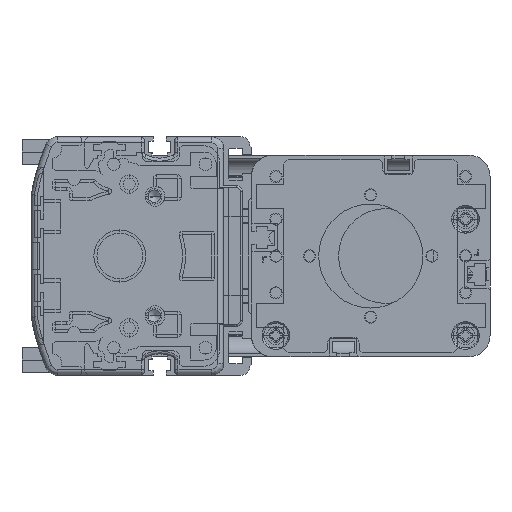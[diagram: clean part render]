
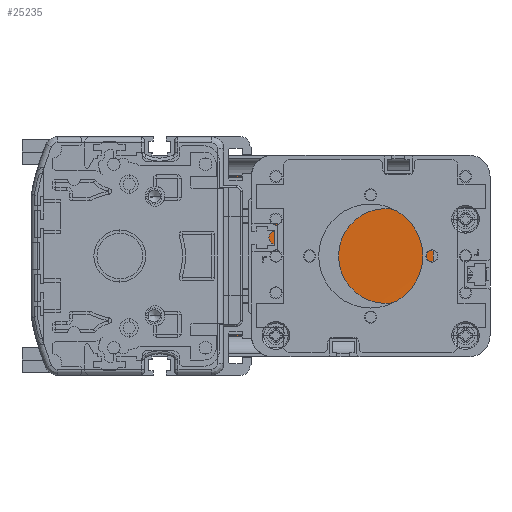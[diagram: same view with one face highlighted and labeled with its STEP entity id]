
A CAD part, left-side view. The second image highlights one B-rep face of the part: STEP entity #25235.
In plain terms, the highlighted spherical face has radius 998.8 mm.
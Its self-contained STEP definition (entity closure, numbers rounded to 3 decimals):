
#7160=CARTESIAN_POINT('',(429.,-67.569,0.));
#7161=DIRECTION('',(0.,1.,0.));
#7162=DIRECTION('',(1.,0.,0.026));
#7163=AXIS2_PLACEMENT_3D('',#7160,#7161,#7162);
#7181=CARTESIAN_POINT('',(429.,-67.569,0.));
#7182=DIRECTION('',(0.,1.,0.));
#7183=DIRECTION('',(1.,0.,-0.007));
#7184=AXIS2_PLACEMENT_3D('',#7181,#7182,#7183);
#7193=CARTESIAN_POINT('',(1425.688,-67.569,
-6.777));
#7194=CARTESIAN_POINT('',(1425.741,-66.776,
-6.493));
#7195=CARTESIAN_POINT('',(1425.841,-65.292,
-5.643));
#7196=CARTESIAN_POINT('',(1425.952,-63.641,
-3.684));
#7197=CARTESIAN_POINT('',(1426.011,-62.764,
-1.279));
#7198=CARTESIAN_POINT('',(1426.011,-62.764,1.28));
#7199=CARTESIAN_POINT('',(1425.952,-63.642,3.684));
#7200=CARTESIAN_POINT('',(1425.841,-65.293,5.644));
#7201=CARTESIAN_POINT('',(1425.741,-66.776,6.493));
#7202=CARTESIAN_POINT('',(1425.688,-67.569,6.777));
#7218=CARTESIAN_POINT('',(1425.688,61.569,6.777));
#7219=CARTESIAN_POINT('',(1425.741,60.779,6.494));
#7220=CARTESIAN_POINT('',(1425.84,59.299,5.648));
#7221=CARTESIAN_POINT('',(1425.952,57.642,3.687));
#7222=CARTESIAN_POINT('',(1426.011,56.764,1.28));
#7223=CARTESIAN_POINT('',(1426.011,56.764,-1.281));
#7224=CARTESIAN_POINT('',(1425.952,57.643,-3.688));
#7225=CARTESIAN_POINT('',(1425.84,59.3,-5.649));
#7226=CARTESIAN_POINT('',(1425.741,60.78,-6.494));
#7227=CARTESIAN_POINT('',(1425.688,61.569,-6.777));
#7229=CARTESIAN_POINT('',(429.,-3.,-26.152));
#7230=DIRECTION('',(0.,0.,1.));
#7231=DIRECTION('',(0.998,-0.065,0.));
#7232=AXIS2_PLACEMENT_3D('',#7229,#7230,#7231);
#7265=CARTESIAN_POINT('',(429.,61.569,0.));
#7266=DIRECTION('',(0.,-1.,0.));
#7267=DIRECTION('',(1.,0.,-0.026));
#7268=AXIS2_PLACEMENT_3D('',#7265,#7266,#7267);
#7278=CARTESIAN_POINT('',(429.,61.569,0.));
#7279=DIRECTION('',(0.,-1.,0.));
#7280=DIRECTION('',(1.,0.,0.007));
#7281=AXIS2_PLACEMENT_3D('',#7278,#7279,#7280);
#7357=CARTESIAN_POINT('',(429.,-3.,26.152));
#7358=DIRECTION('',(0.,0.,-1.));
#7359=DIRECTION('',(0.998,0.065,0.));
#7360=AXIS2_PLACEMENT_3D('',#7357,#7358,#7359);
#13486=VERTEX_POINT('',#7193);
#13487=VERTEX_POINT('',#7202);
#13488=CARTESIAN_POINT('',(1425.368,-67.569,
26.152));
#13489=VERTEX_POINT('',#13488);
#13490=CARTESIAN_POINT('',(1425.368,61.569,26.152));
#13491=VERTEX_POINT('',#13490);
#13492=CARTESIAN_POINT('',(1425.688,61.569,6.777));
#13493=VERTEX_POINT('',#13492);
#13494=VERTEX_POINT('',#7227);
#13495=CARTESIAN_POINT('',(1425.368,61.569,
-26.152));
#13496=VERTEX_POINT('',#13495);
#13497=CARTESIAN_POINT('',(1425.368,-67.569,
-26.152));
#13498=VERTEX_POINT('',#13497);
#25215=CARTESIAN_POINT('',(429.,-3.,0.));
#25216=DIRECTION('',(0.,-1.,0.));
#25217=DIRECTION('',(1.,0.,0.));
#25218=AXIS2_PLACEMENT_3D('',#25215,#25216,#25217);
#25219=SPHERICAL_SURFACE('',#25218,998.8);
#25220=ORIENTED_EDGE('',*,*,#25206,.F.);
#25221=ORIENTED_EDGE('',*,*,#25192,.T.);
#25223=ORIENTED_EDGE('',*,*,#25222,.T.);
#25225=ORIENTED_EDGE('',*,*,#25224,.T.);
#25227=ORIENTED_EDGE('',*,*,#25226,.F.);
#25229=ORIENTED_EDGE('',*,*,#25228,.T.);
#25231=ORIENTED_EDGE('',*,*,#25230,.T.);
#25232=ORIENTED_EDGE('',*,*,#25186,.T.);
#25233=EDGE_LOOP('',(#25220,#25221,#25223,#25225,#25227,#25229,#25231,#25232));
#25234=FACE_OUTER_BOUND('',#25233,.F.);
#25235=ADVANCED_FACE('',(#25234),#25219,.F.);
#7164=CIRCLE('',#7163,996.711);
#7185=CIRCLE('',#7184,996.711);
#7203=B_SPLINE_CURVE_WITH_KNOTS('',3,(#7193,#7194,#7195,#7196,#7197,#7198,#7199,
#7200,#7201,#7202),.UNSPECIFIED.,.F.,.F.,(4,1,1,1,1,1,1,4),(0.,
0.143,0.286,0.429,0.571,
0.714,0.857,1.),.UNSPECIFIED.);
#7228=B_SPLINE_CURVE_WITH_KNOTS('',3,(#7218,#7219,#7220,#7221,#7222,#7223,#7224,
#7225,#7226,#7227),.UNSPECIFIED.,.F.,.F.,(4,1,1,1,1,1,1,4),(0.,
0.143,0.286,0.429,0.571,
0.714,0.857,1.),.UNSPECIFIED.);
#7233=CIRCLE('',#7232,998.458);
#7269=CIRCLE('',#7268,996.711);
#7282=CIRCLE('',#7281,996.711);
#7361=CIRCLE('',#7360,998.458);
#25186=EDGE_CURVE('',#13489,#13487,#7164,.T.);
#25192=EDGE_CURVE('',#13486,#13498,#7185,.T.);
#25206=EDGE_CURVE('',#13486,#13487,#7203,.T.);
#25222=EDGE_CURVE('',#13498,#13496,#7233,.T.);
#25224=EDGE_CURVE('',#13496,#13494,#7269,.T.);
#25226=EDGE_CURVE('',#13493,#13494,#7228,.T.);
#25228=EDGE_CURVE('',#13493,#13491,#7282,.T.);
#25230=EDGE_CURVE('',#13491,#13489,#7361,.T.);
